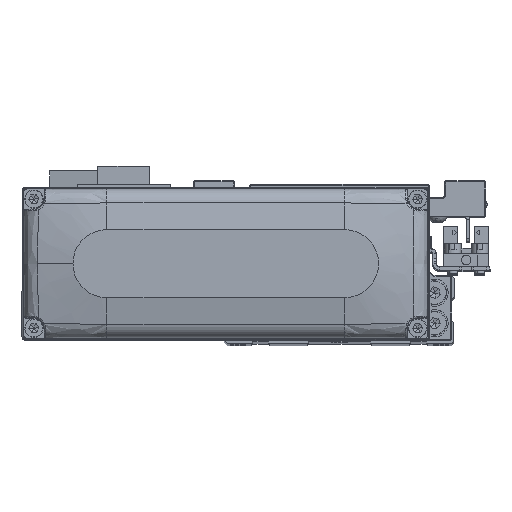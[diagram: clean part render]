
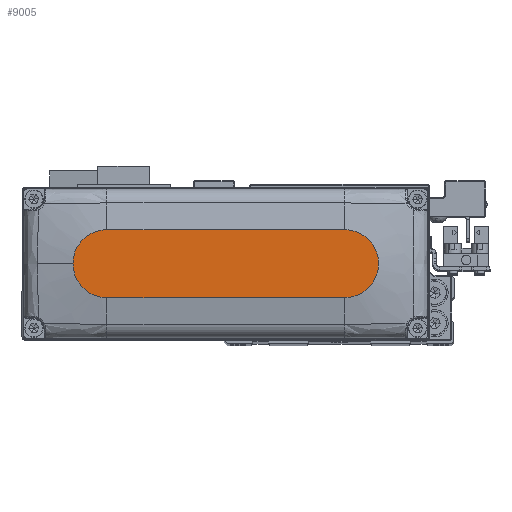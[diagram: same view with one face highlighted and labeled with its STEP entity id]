
A CAD part, top view. The second image highlights one B-rep face of the part: STEP entity #9005.
In plain terms, the highlighted planar face has unit normal (0, 0, 1).
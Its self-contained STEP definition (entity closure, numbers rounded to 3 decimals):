
#527 = PLANE ( 'NONE',  #17334 ) ;
#1491 = CARTESIAN_POINT ( 'NONE',  ( 35., 10., 28. ) ) ;
#3660 = LINE ( 'NONE', #15427, #29486 ) ;
#4019 = AXIS2_PLACEMENT_3D ( 'NONE', #6155, #17918, #29695 ) ;
#6155 = CARTESIAN_POINT ( 'NONE',  ( 35., 0., 28. ) ) ;
#7260 = VECTOR ( 'NONE', #7609, 1000. ) ;
#7609 = DIRECTION ( 'NONE',  ( 1., 0., 0. ) ) ;
#8859 = CARTESIAN_POINT ( 'NONE',  ( -35., -10., 28. ) ) ;
#9005 = ADVANCED_FACE ( 'NONE', ( #26937 ), #527, .T. ) ;
#12310 = CARTESIAN_POINT ( 'NONE',  ( 0., 0., 28. ) ) ;
#12405 = AXIS2_PLACEMENT_3D ( 'NONE', #13845, #25599, #37378 ) ;
#13157 = VERTEX_POINT ( 'NONE', #24986 ) ;
#13255 = CARTESIAN_POINT ( 'NONE',  ( 35., 0., 28. ) ) ;
#13773 = VERTEX_POINT ( 'NONE', #8859 ) ;
#13812 = ORIENTED_EDGE ( 'NONE', *, *, #19909, .T. ) ;
#13845 = CARTESIAN_POINT ( 'NONE',  ( -35., 0., 28. ) ) ;
#14252 = CIRCLE ( 'NONE', #35831, 10. ) ;
#15113 = ORIENTED_EDGE ( 'NONE', *, *, #30542, .T. ) ;
#15427 = CARTESIAN_POINT ( 'NONE',  ( -35., 10., 28. ) ) ;
#15529 = EDGE_CURVE ( 'NONE', #30071, #35721, #3660, .T. ) ;
#15718 = CIRCLE ( 'NONE', #4019, 10. ) ;
#17334 = AXIS2_PLACEMENT_3D ( 'NONE', #12310, #24076, #35857 ) ;
#17472 = CARTESIAN_POINT ( 'NONE',  ( -35., 10., 28. ) ) ;
#17918 = DIRECTION ( 'NONE',  ( 0., 0., 1. ) ) ;
#18172 = EDGE_LOOP ( 'NONE', ( #24422, #33082, #15113, #13812, #31741 ) ) ;
#19909 = EDGE_CURVE ( 'NONE', #13157, #36852, #15718, .T. ) ;
#22284 = LINE ( 'NONE', #34050, #7260 ) ;
#24076 = DIRECTION ( 'NONE',  ( 0., 0., 1. ) ) ;
#24422 = ORIENTED_EDGE ( 'NONE', *, *, #15529, .T. ) ;
#24986 = CARTESIAN_POINT ( 'NONE',  ( 35., -10., 28. ) ) ;
#25012 = DIRECTION ( 'NONE',  ( 0., 0., 1. ) ) ;
#25599 = DIRECTION ( 'NONE',  ( 0., 0., 1. ) ) ;
#26344 = EDGE_CURVE ( 'NONE', #35721, #13773, #29025, .T. ) ;
#26937 = FACE_OUTER_BOUND ( 'NONE', #18172, .T. ) ;
#27194 = DIRECTION ( 'NONE',  ( -1., 0., 0. ) ) ;
#29025 = CIRCLE ( 'NONE', #12405, 10. ) ;
#29105 = CARTESIAN_POINT ( 'NONE',  ( 45., 0., 28. ) ) ;
#29486 = VECTOR ( 'NONE', #27194, 1000. ) ;
#29695 = DIRECTION ( 'NONE',  ( 1., 0., 0. ) ) ;
#30071 = VERTEX_POINT ( 'NONE', #1491 ) ;
#30542 = EDGE_CURVE ( 'NONE', #13773, #13157, #22284, .T. ) ;
#31741 = ORIENTED_EDGE ( 'NONE', *, *, #37164, .T. ) ;
#33082 = ORIENTED_EDGE ( 'NONE', *, *, #26344, .T. ) ;
#34050 = CARTESIAN_POINT ( 'NONE',  ( -35., -10., 28. ) ) ;
#35721 = VERTEX_POINT ( 'NONE', #17472 ) ;
#35831 = AXIS2_PLACEMENT_3D ( 'NONE', #13255, #25012, #36787 ) ;
#35857 = DIRECTION ( 'NONE',  ( 1., 0., 0. ) ) ;
#36787 = DIRECTION ( 'NONE',  ( 1., 0., 0. ) ) ;
#36852 = VERTEX_POINT ( 'NONE', #29105 ) ;
#37164 = EDGE_CURVE ( 'NONE', #36852, #30071, #14252, .T. ) ;
#37378 = DIRECTION ( 'NONE',  ( 1., 0., 0. ) ) ;
